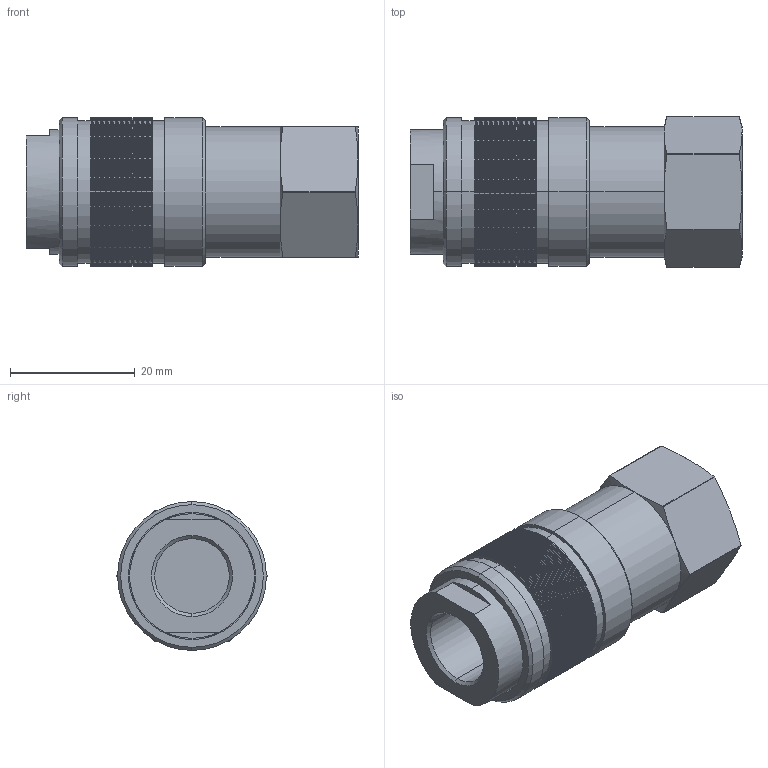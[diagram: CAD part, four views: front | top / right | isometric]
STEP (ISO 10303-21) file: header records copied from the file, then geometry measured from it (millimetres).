
FILE_DESCRIPTION (( 'STEP AP214' ), '1' );
FILE_NAME ('AU_134_0.STEP', '2016-10-12T15:46:23', ( '' ), ( '' ), 'SwSTEP 2.0', 'SolidWorks 2016', '' );
FILE_SCHEMA (( 'AUTOMOTIVE_DESIGN' ));
Length unit declared in the file: millimetre
Products named in the file (1): AU_134_0
Bounding box: 53.3 x 24.2 x 23.9 mm (x, y, z)
Volume: 17502.3 mm3; surface area: 6680.4 mm2
Topology: 1 solids, 1 shells, 462 faces, 936 edges, 486 vertices
Faces by surface type: cylinder 224, cone 216, plane 22
Entity records: 11846 total; most frequent: DIRECTION 2308, CARTESIAN_POINT 2005, ORIENTED_EDGE 1872, EDGE_CURVE 936, AXIS2_PLACEMENT_3D 933, VERTEX_POINT 486, EDGE_LOOP 472, CIRCLE 470
